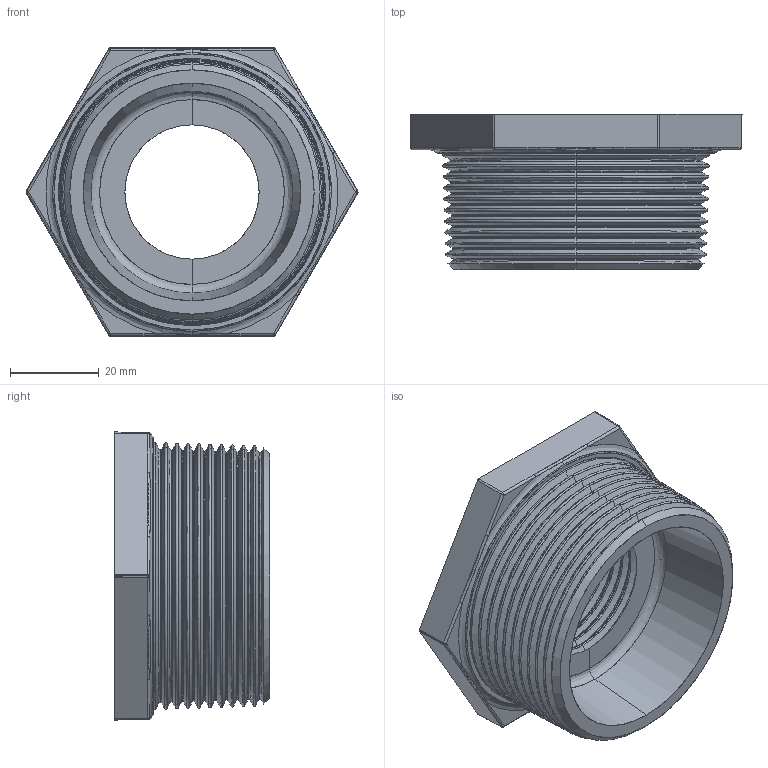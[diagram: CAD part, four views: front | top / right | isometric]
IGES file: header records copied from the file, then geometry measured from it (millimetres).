
Start section: SolidWorks IGES file using analytic representation for surfaces
Global section: file name: C:\Users\Joel Rosa\Desktop\Tubulação\12-01-OK\12-01-045.IGS; native system: SolidWorks 2011; preprocessor: SolidWorks 2011; author: Joel Rosa; date: 121203.200450; units: millimetre
Bounding box: 74.9 x 35 x 65 mm (x, y, z)
Surface area: 20491.9 mm2 (no closed solid volume)
Topology: 0 solids, 0 shells, 347 faces, 2741 edges, 2741 vertices
Faces by surface type: bspline 237, revolution 110
